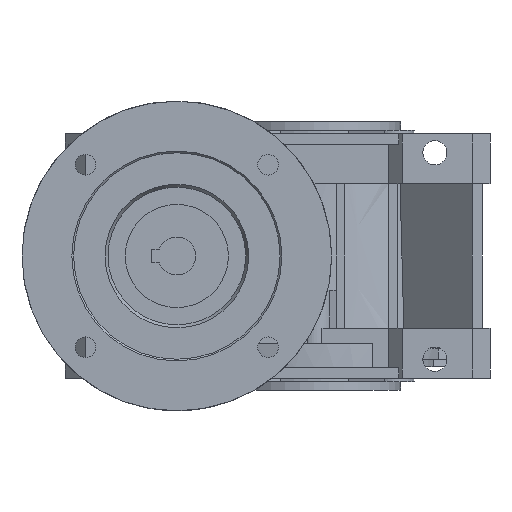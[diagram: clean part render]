
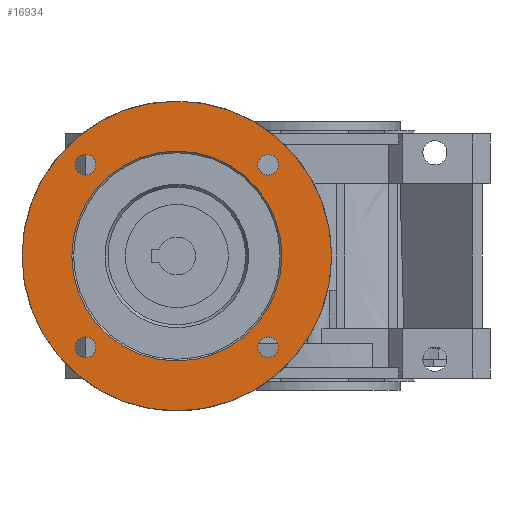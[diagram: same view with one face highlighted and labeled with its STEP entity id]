
A CAD part, left-side view. The second image highlights one B-rep face of the part: STEP entity #16934.
In plain terms, the highlighted planar face has unit normal (-1, 0, 0).
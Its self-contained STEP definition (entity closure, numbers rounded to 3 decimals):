
#83 = FACE_BOUND ( 'NONE', #17574, .T. ) ;
#279 = VERTEX_POINT ( 'NONE', #452 ) ;
#452 = CARTESIAN_POINT ( 'NONE',  ( -65., 66.517, -29.517 ) ) ;
#454 = ORIENTED_EDGE ( 'NONE', *, *, #12565, .T. ) ;
#1093 = DIRECTION ( 'NONE',  ( 0., 0., -1. ) ) ;
#1230 = DIRECTION ( 'NONE',  ( 0., 0., -1. ) ) ;
#1356 = CARTESIAN_POINT ( 'NONE',  ( -65., 66.517, -26.517 ) ) ;
#1547 = EDGE_LOOP ( 'NONE', ( #3627 ) ) ;
#1563 = CIRCLE ( 'NONE', #14184, 45. ) ;
#2272 = VERTEX_POINT ( 'NONE', #4729 ) ;
#2311 = DIRECTION ( 'NONE',  ( 1., 0., 0. ) ) ;
#2774 = DIRECTION ( 'NONE',  ( 0., 0., -1. ) ) ;
#3031 = CARTESIAN_POINT ( 'NONE',  ( -65., 66.517, 26.517 ) ) ;
#3286 = CARTESIAN_POINT ( 'NONE',  ( -65., 40., -30.5 ) ) ;
#3571 = VERTEX_POINT ( 'NONE', #3286 ) ;
#3627 = ORIENTED_EDGE ( 'NONE', *, *, #13724, .T. ) ;
#3802 = FACE_BOUND ( 'NONE', #13756, .T. ) ;
#4096 = ORIENTED_EDGE ( 'NONE', *, *, #14105, .T. ) ;
#4218 = CIRCLE ( 'NONE', #8467, 3. ) ;
#4231 = FACE_BOUND ( 'NONE', #8480, .T. ) ;
#4407 = DIRECTION ( 'NONE',  ( 0., 0., -1. ) ) ;
#4729 = CARTESIAN_POINT ( 'NONE',  ( -65., 66.517, 23.517 ) ) ;
#4872 = CARTESIAN_POINT ( 'NONE',  ( -65., 13.483, -26.517 ) ) ;
#5083 = AXIS2_PLACEMENT_3D ( 'NONE', #3031, #12756, #4407 ) ;
#5854 = ORIENTED_EDGE ( 'NONE', *, *, #11342, .T. ) ;
#5942 = VERTEX_POINT ( 'NONE', #13061 ) ;
#6125 = CIRCLE ( 'NONE', #5083, 3. ) ;
#6278 = DIRECTION ( 'NONE',  ( 0., 0., -1. ) ) ;
#6777 = PLANE ( 'NONE',  #13764 ) ;
#7161 = CARTESIAN_POINT ( 'NONE',  ( -65., 40., 0. ) ) ;
#7513 = FACE_BOUND ( 'NONE', #18106, .T. ) ;
#8338 = ORIENTED_EDGE ( 'NONE', *, *, #10870, .T. ) ;
#8467 = AXIS2_PLACEMENT_3D ( 'NONE', #4872, #14632, #6278 ) ;
#8480 = EDGE_LOOP ( 'NONE', ( #9817 ) ) ;
#8553 = DIRECTION ( 'NONE',  ( 0., 0., 1. ) ) ;
#8945 = AXIS2_PLACEMENT_3D ( 'NONE', #10653, #2311, #12050 ) ;
#9436 = DIRECTION ( 'NONE',  ( 1., 0., 0. ) ) ;
#9587 = DIRECTION ( 'NONE',  ( -1., 0., 0. ) ) ;
#9646 = AXIS2_PLACEMENT_3D ( 'NONE', #1356, #11114, #2774 ) ;
#9817 = ORIENTED_EDGE ( 'NONE', *, *, #13451, .T. ) ;
#10010 = EDGE_LOOP ( 'NONE', ( #4096 ) ) ;
#10653 = CARTESIAN_POINT ( 'NONE',  ( -65., 13.483, 26.517 ) ) ;
#10870 = EDGE_CURVE ( 'NONE', #279, #279, #12998, .T. ) ;
#11114 = DIRECTION ( 'NONE',  ( 1., 0., 0. ) ) ;
#11137 = AXIS2_PLACEMENT_3D ( 'NONE', #17805, #9436, #1093 ) ;
#11342 = EDGE_CURVE ( 'NONE', #3571, #3571, #16707, .T. ) ;
#11686 = CARTESIAN_POINT ( 'NONE',  ( -65., 13.483, 23.517 ) ) ;
#12050 = DIRECTION ( 'NONE',  ( 0., 0., -1. ) ) ;
#12565 = EDGE_CURVE ( 'NONE', #13803, #13803, #4218, .T. ) ;
#12756 = DIRECTION ( 'NONE',  ( 1., 0., 0. ) ) ;
#12998 = CIRCLE ( 'NONE', #9646, 3. ) ;
#13061 = CARTESIAN_POINT ( 'NONE',  ( -65., 40., 45. ) ) ;
#13363 = VERTEX_POINT ( 'NONE', #11686 ) ;
#13451 = EDGE_CURVE ( 'NONE', #13363, #13363, #16635, .T. ) ;
#13724 = EDGE_CURVE ( 'NONE', #5942, #5942, #1563, .T. ) ;
#13756 = EDGE_LOOP ( 'NONE', ( #8338 ) ) ;
#13764 = AXIS2_PLACEMENT_3D ( 'NONE', #16527, #9587, #1230 ) ;
#13803 = VERTEX_POINT ( 'NONE', #17236 ) ;
#14105 = EDGE_CURVE ( 'NONE', #2272, #2272, #6125, .T. ) ;
#14184 = AXIS2_PLACEMENT_3D ( 'NONE', #7161, #16898, #8553 ) ;
#14488 = FACE_OUTER_BOUND ( 'NONE', #1547, .T. ) ;
#14632 = DIRECTION ( 'NONE',  ( 1., 0., 0. ) ) ;
#14917 = FACE_BOUND ( 'NONE', #10010, .T. ) ;
#16527 = CARTESIAN_POINT ( 'NONE',  ( -65., 86.396, 46.396 ) ) ;
#16635 = CIRCLE ( 'NONE', #8945, 3. ) ;
#16707 = CIRCLE ( 'NONE', #11137, 30.5 ) ;
#16898 = DIRECTION ( 'NONE',  ( -1., 0., 0. ) ) ;
#16934 = ADVANCED_FACE ( 'NONE', ( #7513, #4231, #14917, #3802, #83, #14488 ), #6777, .T. ) ;
#17236 = CARTESIAN_POINT ( 'NONE',  ( -65., 13.483, -29.517 ) ) ;
#17574 = EDGE_LOOP ( 'NONE', ( #5854 ) ) ;
#17805 = CARTESIAN_POINT ( 'NONE',  ( -65., 40., 0. ) ) ;
#18106 = EDGE_LOOP ( 'NONE', ( #454 ) ) ;
